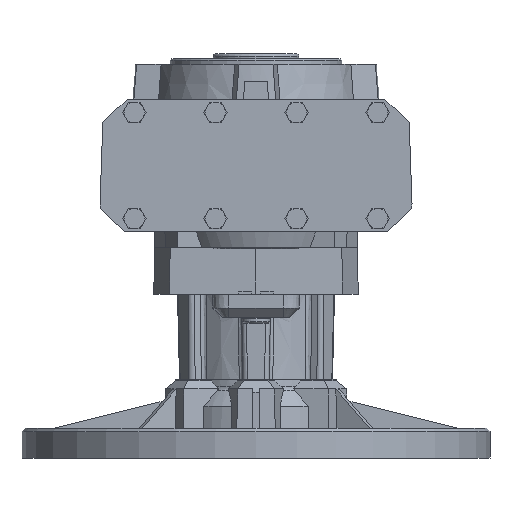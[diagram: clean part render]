
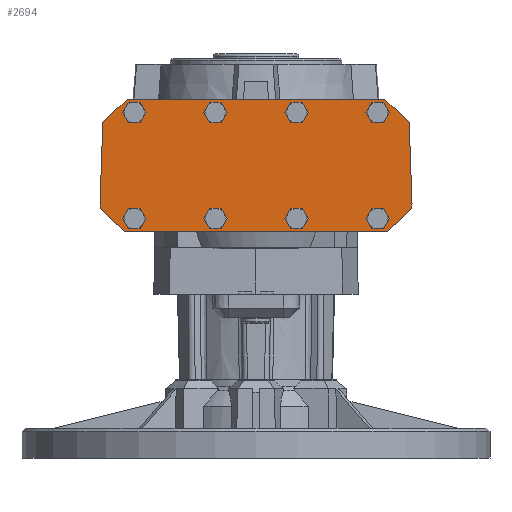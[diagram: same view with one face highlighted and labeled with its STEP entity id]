
A CAD part, front view. The second image highlights one B-rep face of the part: STEP entity #2694.
In plain terms, the highlighted planar face has unit normal (0, -1, 0).
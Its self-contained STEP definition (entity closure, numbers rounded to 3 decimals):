
#2694 = ADVANCED_FACE( '', ( #5909, #5910, #5911, #5912, #5913, #5914, #5915, #5916, #5917 ), #5918, .F. );
#5909 = FACE_BOUND( '', #10072, .T. );
#5910 = FACE_BOUND( '', #10073, .T. );
#5911 = FACE_BOUND( '', #10074, .T. );
#5912 = FACE_BOUND( '', #10075, .T. );
#5913 = FACE_BOUND( '', #10076, .T. );
#5914 = FACE_BOUND( '', #10077, .T. );
#5915 = FACE_BOUND( '', #10078, .T. );
#5916 = FACE_BOUND( '', #10079, .T. );
#5917 = FACE_OUTER_BOUND( '', #10080, .T. );
#5918 = PLANE( '', #10081 );
#10072 = EDGE_LOOP( '', ( #17852 ) );
#10073 = EDGE_LOOP( '', ( #17853 ) );
#10074 = EDGE_LOOP( '', ( #17854 ) );
#10075 = EDGE_LOOP( '', ( #17855 ) );
#10076 = EDGE_LOOP( '', ( #17856 ) );
#10077 = EDGE_LOOP( '', ( #17857 ) );
#10078 = EDGE_LOOP( '', ( #17858 ) );
#10079 = EDGE_LOOP( '', ( #17859 ) );
#10080 = EDGE_LOOP( '', ( #17860, #17861, #17862, #17863, #17864, #17865, #17866, #17867, #17868, #17869 ) );
#10081 = AXIS2_PLACEMENT_3D( '', #17870, #17871, #17872 );
#17852 = ORIENTED_EDGE( '', *, *, #22101, .T. );
#17853 = ORIENTED_EDGE( '', *, *, #24121, .T. );
#17854 = ORIENTED_EDGE( '', *, *, #21727, .T. );
#17855 = ORIENTED_EDGE( '', *, *, #24122, .T. );
#17856 = ORIENTED_EDGE( '', *, *, #22690, .T. );
#17857 = ORIENTED_EDGE( '', *, *, #22937, .T. );
#17858 = ORIENTED_EDGE( '', *, *, #24123, .T. );
#17859 = ORIENTED_EDGE( '', *, *, #24124, .T. );
#17860 = ORIENTED_EDGE( '', *, *, #24125, .F. );
#17861 = ORIENTED_EDGE( '', *, *, #21716, .T. );
#17862 = ORIENTED_EDGE( '', *, *, #24126, .F. );
#17863 = ORIENTED_EDGE( '', *, *, #23072, .F. );
#17864 = ORIENTED_EDGE( '', *, *, #24127, .T. );
#17865 = ORIENTED_EDGE( '', *, *, #22260, .F. );
#17866 = ORIENTED_EDGE( '', *, *, #23406, .T. );
#17867 = ORIENTED_EDGE( '', *, *, #24128, .F. );
#17868 = ORIENTED_EDGE( '', *, *, #24129, .F. );
#17869 = ORIENTED_EDGE( '', *, *, #21278, .T. );
#17870 = CARTESIAN_POINT( '', ( 100., -95., -107.5 ) );
#17871 = DIRECTION( '', ( 0., 1., 0. ) );
#17872 = DIRECTION( '', ( 1., 0., 0. ) );
#21278 = EDGE_CURVE( '', #25026, #25024, #25027, .T. );
#21716 = EDGE_CURVE( '', #25795, #25793, #25796, .T. );
#21727 = EDGE_CURVE( '', #25811, #25811, #25812, .T. );
#22101 = EDGE_CURVE( '', #26436, #26436, #26437, .T. );
#22260 = EDGE_CURVE( '', #26692, #26693, #26694, .T. );
#22690 = EDGE_CURVE( '', #27381, #27381, #27382, .T. );
#22937 = EDGE_CURVE( '', #27765, #27765, #27766, .T. );
#23072 = EDGE_CURVE( '', #27958, #27960, #27961, .F. );
#23406 = EDGE_CURVE( '', #26692, #28447, #28449, .T. );
#24121 = EDGE_CURVE( '', #29388, #29388, #29389, .T. );
#24122 = EDGE_CURVE( '', #29390, #29390, #29391, .T. );
#24123 = EDGE_CURVE( '', #29392, #29392, #29393, .T. );
#24124 = EDGE_CURVE( '', #29394, #29394, #29395, .T. );
#24125 = EDGE_CURVE( '', #25795, #25024, #29396, .T. );
#24126 = EDGE_CURVE( '', #27960, #25793, #29397, .F. );
#24127 = EDGE_CURVE( '', #27958, #26693, #29398, .T. );
#24128 = EDGE_CURVE( '', #29399, #28447, #29400, .F. );
#24129 = EDGE_CURVE( '', #25026, #29399, #29401, .F. );
#25024 = VERTEX_POINT( '', #30609 );
#25026 = VERTEX_POINT( '', #30612 );
#25027 = LINE( '', #30613, #30614 );
#25793 = VERTEX_POINT( '', #31777 );
#25795 = VERTEX_POINT( '', #31780 );
#25796 = LINE( '', #31781, #31782 );
#25811 = VERTEX_POINT( '', #31820 );
#25812 = CIRCLE( '', #31821, 5.7 );
#26436 = VERTEX_POINT( '', #32930 );
#26437 = CIRCLE( '', #32931, 5.7 );
#26692 = VERTEX_POINT( '', #33361 );
#26693 = VERTEX_POINT( '', #33362 );
#26694 = LINE( '', #33363, #33364 );
#27381 = VERTEX_POINT( '', #34505 );
#27382 = CIRCLE( '', #34506, 5.7 );
#27765 = VERTEX_POINT( '', #35159 );
#27766 = CIRCLE( '', #35160, 5.7 );
#27958 = VERTEX_POINT( '', #35442 );
#27960 = VERTEX_POINT( '', #35445 );
#27961 = LINE( '', #35446, #35447 );
#28447 = VERTEX_POINT( '', #36204 );
#28449 = LINE( '', #36207, #36208 );
#29388 = VERTEX_POINT( '', #37653 );
#29389 = CIRCLE( '', #37654, 5.7 );
#29390 = VERTEX_POINT( '', #37655 );
#29391 = CIRCLE( '', #37656, 5.7 );
#29392 = VERTEX_POINT( '', #37657 );
#29393 = CIRCLE( '', #37658, 5.7 );
#29394 = VERTEX_POINT( '', #37659 );
#29395 = CIRCLE( '', #37660, 5.7 );
#29396 = LINE( '', #37661, #37662 );
#29397 = LINE( '', #37663, #37664 );
#29398 = LINE( '', #37665, #37666 );
#29399 = VERTEX_POINT( '', #37667 );
#29400 = LINE( '', #37668, #37669 );
#29401 = LINE( '', #37670, #37671 );
#30609 = CARTESIAN_POINT( '', ( 82.66, -95., -22.5 ) );
#30612 = CARTESIAN_POINT( '', ( 98.184, -95., -37.491 ) );
#30613 = CARTESIAN_POINT( '', ( 98.184, -95., -37.491 ) );
#30614 = VECTOR( '', #38881, 1000. );
#31777 = CARTESIAN_POINT( '', ( -98.184, -95., -37.491 ) );
#31780 = CARTESIAN_POINT( '', ( -82.66, -95., -22.5 ) );
#31781 = CARTESIAN_POINT( '', ( -82.66, -95., -22.5 ) );
#31782 = VECTOR( '', #39361, 1000. );
#31820 = CARTESIAN_POINT( '', ( -26., -95., -93.3 ) );
#31821 = AXIS2_PLACEMENT_3D( '', #39369, #39370, #39371 );
#32930 = CARTESIAN_POINT( '', ( -78., -95., -25.3 ) );
#32931 = AXIS2_PLACEMENT_3D( '', #39724, #39725, #39726 );
#33361 = CARTESIAN_POINT( '', ( 84.371, -95., -107.5 ) );
#33362 = CARTESIAN_POINT( '', ( -84.371, -95., -107.5 ) );
#33363 = CARTESIAN_POINT( '', ( 100., -95., -107.5 ) );
#33364 = VECTOR( '', #39864, 1000. );
#34505 = CARTESIAN_POINT( '', ( 78., -95., -93.3 ) );
#34506 = AXIS2_PLACEMENT_3D( '', #40284, #40285, #40286 );
#35159 = CARTESIAN_POINT( '', ( 78., -95., -25.3 ) );
#35160 = AXIS2_PLACEMENT_3D( '', #40542, #40543, #40544 );
#35442 = CARTESIAN_POINT( '', ( -99.895, -95., -92.509 ) );
#35445 = CARTESIAN_POINT( '', ( -100., -95., -89.5 ) );
#35446 = CARTESIAN_POINT( '', ( -100., -95., -89.5 ) );
#35447 = VECTOR( '', #40671, 1000. );
#36204 = CARTESIAN_POINT( '', ( 99.895, -95., -92.509 ) );
#36207 = CARTESIAN_POINT( '', ( 84.371, -95., -107.5 ) );
#36208 = VECTOR( '', #41031, 1000. );
#37653 = CARTESIAN_POINT( '', ( -78., -95., -93.3 ) );
#37654 = AXIS2_PLACEMENT_3D( '', #41702, #41703, #41704 );
#37655 = CARTESIAN_POINT( '', ( 26., -95., -93.3 ) );
#37656 = AXIS2_PLACEMENT_3D( '', #41705, #41706, #41707 );
#37657 = CARTESIAN_POINT( '', ( 26., -95., -25.3 ) );
#37658 = AXIS2_PLACEMENT_3D( '', #41708, #41709, #41710 );
#37659 = CARTESIAN_POINT( '', ( -26., -95., -25.3 ) );
#37660 = AXIS2_PLACEMENT_3D( '', #41711, #41712, #41713 );
#37661 = CARTESIAN_POINT( '', ( -100., -95., -22.5 ) );
#37662 = VECTOR( '', #41714, 1000. );
#37663 = CARTESIAN_POINT( '', ( -100., -95., -89.5 ) );
#37664 = VECTOR( '', #41715, 1000. );
#37665 = CARTESIAN_POINT( '', ( -99.895, -95., -92.509 ) );
#37666 = VECTOR( '', #41716, 1000. );
#37667 = CARTESIAN_POINT( '', ( 100., -95., -89.5 ) );
#37668 = CARTESIAN_POINT( '', ( 100., -95., -89.5 ) );
#37669 = VECTOR( '', #41717, 1000. );
#37670 = CARTESIAN_POINT( '', ( 100., -95., -89.5 ) );
#37671 = VECTOR( '', #41718, 1000. );
#38881 = DIRECTION( '', ( -0.719, 0., 0.695 ) );
#39361 = DIRECTION( '', ( -0.719, 0., -0.695 ) );
#39369 = CARTESIAN_POINT( '', ( -26., -95., -99. ) );
#39370 = DIRECTION( '', ( 0., 1., 0. ) );
#39371 = DIRECTION( '', ( 0., 0., 1. ) );
#39724 = CARTESIAN_POINT( '', ( -78., -95., -31. ) );
#39725 = DIRECTION( '', ( 0., 1., 0. ) );
#39726 = DIRECTION( '', ( 0., 0., 1. ) );
#39864 = DIRECTION( '', ( -1., 0., 0. ) );
#40284 = CARTESIAN_POINT( '', ( 78., -95., -99. ) );
#40285 = DIRECTION( '', ( 0., 1., 0. ) );
#40286 = DIRECTION( '', ( 0., 0., 1. ) );
#40542 = CARTESIAN_POINT( '', ( 78., -95., -31. ) );
#40543 = DIRECTION( '', ( 0., 1., 0. ) );
#40544 = DIRECTION( '', ( 0., 0., 1. ) );
#40671 = DIRECTION( '', ( 0.035, 0., -0.999 ) );
#41031 = DIRECTION( '', ( 0.719, 0., 0.695 ) );
#41702 = CARTESIAN_POINT( '', ( -78., -95., -99. ) );
#41703 = DIRECTION( '', ( 0., 1., 0. ) );
#41704 = DIRECTION( '', ( 0., 0., 1. ) );
#41705 = CARTESIAN_POINT( '', ( 26., -95., -99. ) );
#41706 = DIRECTION( '', ( 0., 1., 0. ) );
#41707 = DIRECTION( '', ( 0., 0., 1. ) );
#41708 = CARTESIAN_POINT( '', ( 26., -95., -31. ) );
#41709 = DIRECTION( '', ( 0., 1., 0. ) );
#41710 = DIRECTION( '', ( 0., 0., 1. ) );
#41711 = CARTESIAN_POINT( '', ( -26., -95., -31. ) );
#41712 = DIRECTION( '', ( 0., 1., 0. ) );
#41713 = DIRECTION( '', ( 0., 0., 1. ) );
#41714 = DIRECTION( '', ( 1., 0., 0. ) );
#41715 = DIRECTION( '', ( -0.035, 0., -0.999 ) );
#41716 = DIRECTION( '', ( 0.719, 0., -0.695 ) );
#41717 = DIRECTION( '', ( 0.035, 0., 0.999 ) );
#41718 = DIRECTION( '', ( -0.035, 0., 0.999 ) );
